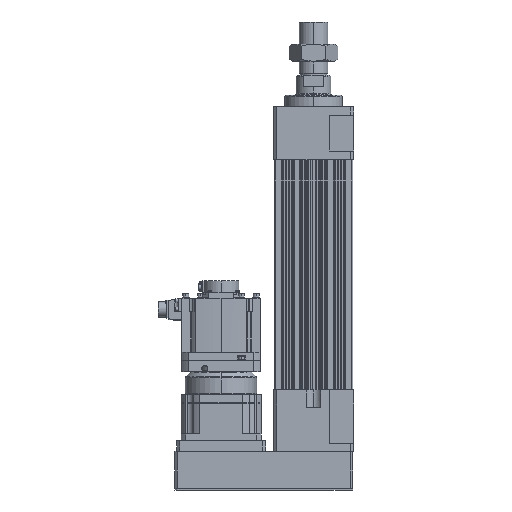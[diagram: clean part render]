
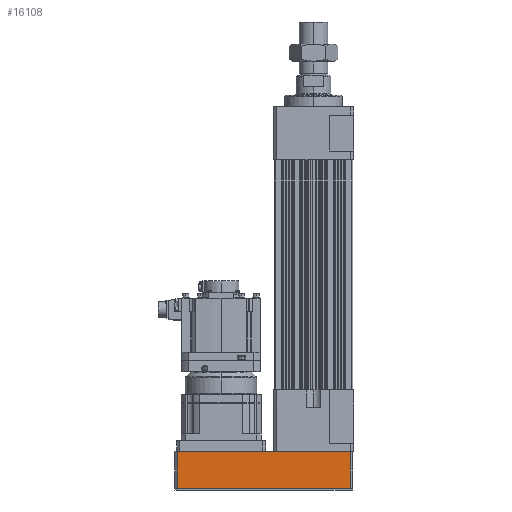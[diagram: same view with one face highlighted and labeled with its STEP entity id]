
A CAD part, left-side view. The second image highlights one B-rep face of the part: STEP entity #16108.
In plain terms, the highlighted planar face has unit normal (-1, 0, 0).
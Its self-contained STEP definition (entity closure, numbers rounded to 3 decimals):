
#156 = VECTOR ( 'NONE', #39770, 1000. ) ;
#444 = CARTESIAN_POINT ( 'NONE',  ( -88., -82., -221.5 ) ) ;
#4107 = VECTOR ( 'NONE', #17136, 1000. ) ;
#5082 = VERTEX_POINT ( 'NONE', #444 ) ;
#9851 = EDGE_CURVE ( 'NONE', #44292, #5082, #11061, .T. ) ;
#10908 = VERTEX_POINT ( 'NONE', #27899 ) ;
#11061 = LINE ( 'NONE', #19168, #156 ) ;
#12384 = EDGE_CURVE ( 'NONE', #5082, #10908, #18239, .T. ) ;
#13452 = AXIS2_PLACEMENT_3D ( 'NONE', #34138, #46657, #26301 ) ;
#16108 = ADVANCED_FACE ( 'NONE', ( #30189 ), #26490, .F. ) ;
#16408 = ORIENTED_EDGE ( 'NONE', *, *, #17023, .T. ) ;
#17023 = EDGE_CURVE ( 'NONE', #10908, #28249, #18499, .T. ) ;
#17136 = DIRECTION ( 'NONE',  ( 0., 0., 1. ) ) ;
#18239 = LINE ( 'NONE', #25603, #4107 ) ;
#18499 = LINE ( 'NONE', #26022, #39013 ) ;
#19168 = CARTESIAN_POINT ( 'NONE',  ( -88., -82., -221.5 ) ) ;
#21818 = VECTOR ( 'NONE', #46795, 1000. ) ;
#21854 = DIRECTION ( 'NONE',  ( 0., 1., 0. ) ) ;
#22278 = CARTESIAN_POINT ( 'NONE',  ( -88., 306., -222. ) ) ;
#25603 = CARTESIAN_POINT ( 'NONE',  ( -88., -82., -222. ) ) ;
#26022 = CARTESIAN_POINT ( 'NONE',  ( -88., -82., -138.5 ) ) ;
#26301 = DIRECTION ( 'NONE',  ( 0., 0., -1. ) ) ;
#26445 = ORIENTED_EDGE ( 'NONE', *, *, #51630, .F. ) ;
#26490 = PLANE ( 'NONE',  #13452 ) ;
#27568 = ORIENTED_EDGE ( 'NONE', *, *, #9851, .T. ) ;
#27899 = CARTESIAN_POINT ( 'NONE',  ( -88., -82., -138.5 ) ) ;
#28075 = CARTESIAN_POINT ( 'NONE',  ( -88., 306., -138.5 ) ) ;
#28228 = LINE ( 'NONE', #22278, #21818 ) ;
#28249 = VERTEX_POINT ( 'NONE', #28075 ) ;
#30189 = FACE_OUTER_BOUND ( 'NONE', #31615, .T. ) ;
#30808 = CARTESIAN_POINT ( 'NONE',  ( -88., 306., -221.5 ) ) ;
#31615 = EDGE_LOOP ( 'NONE', ( #26445, #27568, #35476, #16408 ) ) ;
#34138 = CARTESIAN_POINT ( 'NONE',  ( -88., -82., -222. ) ) ;
#35476 = ORIENTED_EDGE ( 'NONE', *, *, #12384, .T. ) ;
#39013 = VECTOR ( 'NONE', #21854, 1000. ) ;
#39770 = DIRECTION ( 'NONE',  ( 0., -1., 0. ) ) ;
#44292 = VERTEX_POINT ( 'NONE', #30808 ) ;
#46657 = DIRECTION ( 'NONE',  ( 1., 0., 0. ) ) ;
#46795 = DIRECTION ( 'NONE',  ( 0., 0., 1. ) ) ;
#51630 = EDGE_CURVE ( 'NONE', #44292, #28249, #28228, .T. ) ;
